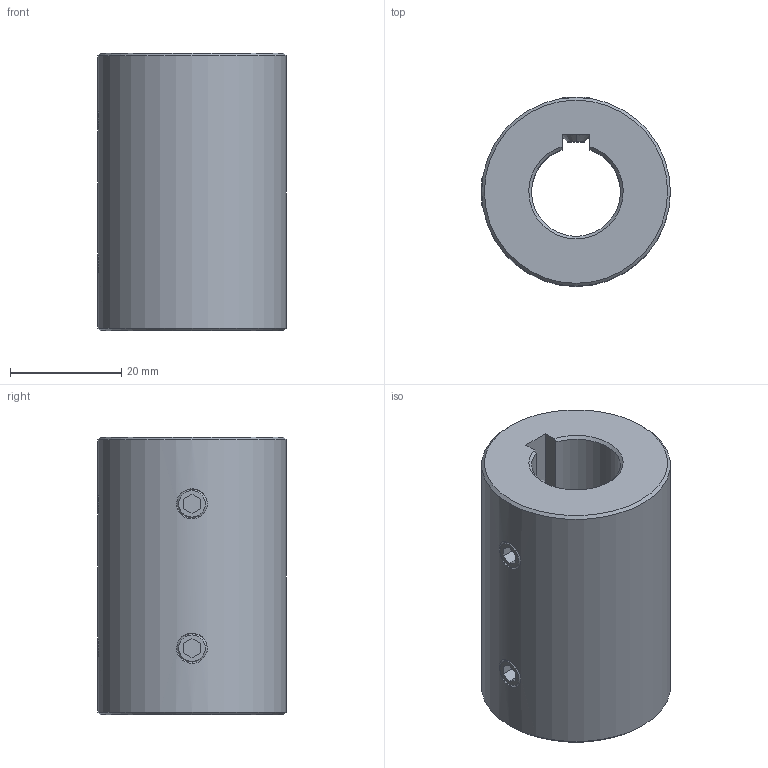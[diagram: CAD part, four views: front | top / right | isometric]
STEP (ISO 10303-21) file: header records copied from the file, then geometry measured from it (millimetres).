
FILE_DESCRIPTION (( 'STEP AP214' ), '1' );
FILE_NAME ('KBST1-VA-N16.STEP', '2025-07-29T07:18:34', ( '' ), ( '' ), 'SwSTEP 2.0', 'SolidWorks 2024', '' );
FILE_SCHEMA (( 'AUTOMOTIVE_DESIGN' ));
Length unit declared in the file: millimetre
Products named in the file (1): KBST1-VA-N16
Bounding box: 34 x 34 x 50 mm (x, y, z)
Volume: 34499.8 mm3; surface area: 10619.8 mm2
Topology: 5 solids, 5 shells, 85 faces, 197 edges, 116 vertices
Faces by surface type: plane 39, cone 28, cylinder 14, bspline 4
Full cylindrical faces by diameter (mm): 5 x4, 34 x1
Entity records: 7786 total; most frequent: CARTESIAN_POINT 4954, DIRECTION 370, ORIENTED_EDGE 352, EDGE_CURVE 176, AXIS2_PLACEMENT_3D 126, LINE 118, VECTOR 118, VERTEX_POINT 114
